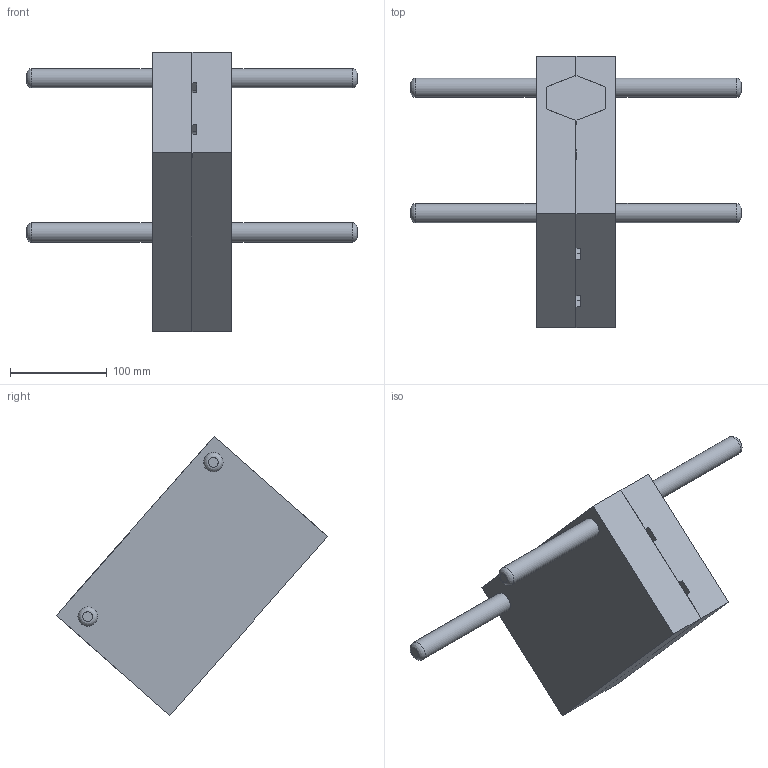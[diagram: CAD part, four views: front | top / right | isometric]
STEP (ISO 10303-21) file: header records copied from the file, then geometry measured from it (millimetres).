
FILE_DESCRIPTION(/* description */ (''),/* implementation_level */ '2;1');
FILE_NAME(/* name */ 'HEAD TUBE LUG DOWN.step',/* time_stamp */ '2024-08-24T16:44:15+02:00',/* author */ (''),/* organization */ (''),/* preprocessor_version */ 'ST-DEVELOPER v20',/* originating_system */ 'Autodesk Translation Framework v13.14.0.145',/* authorisation */ '');
FILE_SCHEMA (('AUTOMOTIVE_DESIGN { 1 0 10303 214 3 1 1 }'));
Length unit declared in the file: millimetre
Products named in the file (18): HEAD TUBE LUG DOWN; E_1200_2_5x12_1 v1; NOYAU SABLE; NOYAU HAUT; HTLD SORTIE FONDERIE; PLAQUETTE BUTEE; HTLD SORTIE USINAGE; NOYAU BAS; E_1300_5x16_1 v1; ALIMENTATION; MOULE GAUCHE; MOULE DROITE; POIGNEES HTLD v2; POIGNEES FONDERIE v1; POIGNEE DE GUIDAGE; POIGNEE SIMPLE; POIGNEE DE GUIDAGE (1); POIGNEE SIMPLE (1)
Assembly tree (20 placements, depth 4):
  HEAD TUBE LUG DOWN
    E_1200_2_5x12_1 v1
    NOYAU SABLE
    NOYAU HAUT
    HTLD SORTIE FONDERIE
    PLAQUETTE BUTEE
    HTLD SORTIE USINAGE
    NOYAU BAS
    E_1300_5x16_1 v1  x4
    ALIMENTATION
    MOULE GAUCHE
    MOULE DROITE
    POIGNEES HTLD v2
      POIGNEES FONDERIE v1
        POIGNEE DE GUIDAGE
        POIGNEE SIMPLE
        POIGNEE DE GUIDAGE (1)
        POIGNEE SIMPLE (1)
Bounding box: 340.45 x 279.76 x 287.77 mm (x, y, z)
Volume: 3323928 mm3; surface area: 387744.5 mm2
Topology: 18 solids, 18 shells, 286 faces, 725 edges, 473 vertices
Faces by surface type: plane 100, cylinder 86, bspline 39, cone 27, sphere 20, torus 14
Full cylindrical faces by diameter (mm): 2.075 x1, 2.5 x1, 3 x1, 4.4 x1, 5 x8, 8 x1, 9.7 x2, 10 x10, 10.274 x4, 11.834 x4, 12 x1, 20 x6, 35.7 x1, 38.3 x5, 40.3 x1, 48.3 x4
Entity records: 12759 total; most frequent: CARTESIAN_POINT 5619, DIRECTION 1444, ORIENTED_EDGE 1370, EDGE_CURVE 685, AXIS2_PLACEMENT_3D 591, VERTEX_POINT 452, EDGE_LOOP 301, FACE_OUTER_BOUND 268
